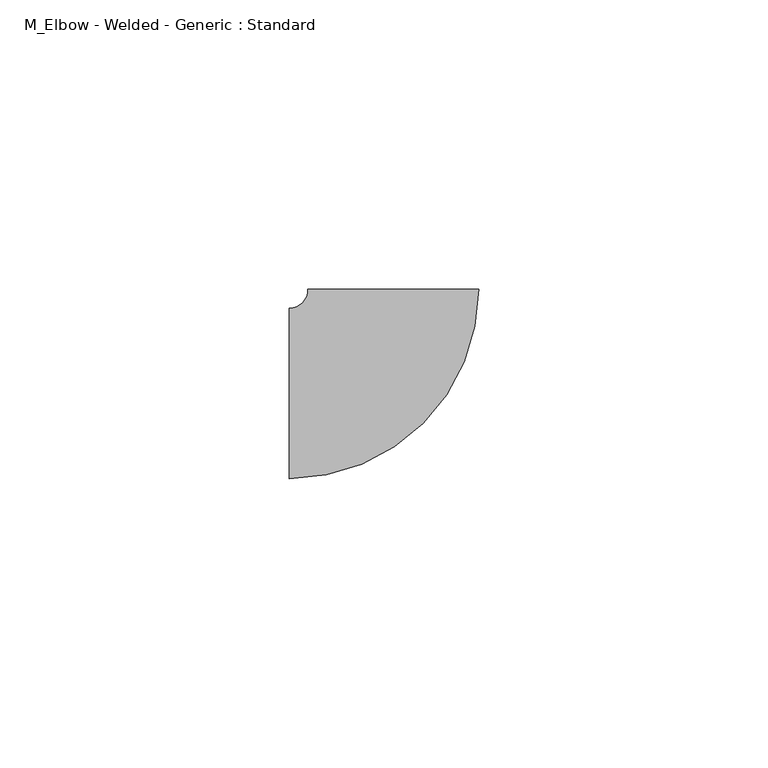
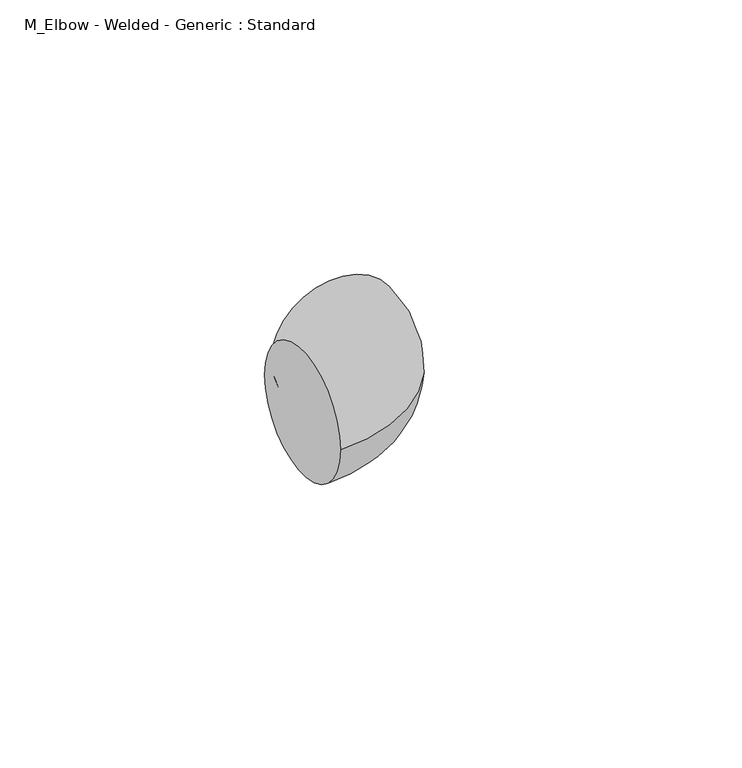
"""IFC4 building model written with IfcOpenShell, lengths in millimetres: pipe fitting geometry, M_Elbow - Welded - Generic : Standard."""

from ifc_helpers import new_model, si_unit, point, frame, origin, place, context, project, spatial, circle_curve, ellipse_curve, trimmed, source, transform, mapped, element, save
from ifc_brep_helpers import plane_surface, revolved_surface, advanced_brep


def m_elbow_welded_generic_standard_d2a14586(model_context):
    return source(origin(), model_context, "Body", "AdvancedBrep", [
        advanced_brep(
        [(-17.9427187, -14.7339844, 0.0), (-17.9427187, 14.7339844, 0.0), (14.7339844, 17.9427187, 0.0), (-14.7339844, 17.9427187, 0.0)],
        [
            (0, 1, circle_curve(frame((-17.9427187, 0.0, 0.0), z_axis=(-1.0, 0.0, 0.0), x_axis=(0.0, 1.0, 0.0)), 14.7339844)),
            (1, 0, circle_curve(frame((-17.9427187, 0.0, 0.0), z_axis=(-1.0, 0.0, 0.0), x_axis=(0.0, 1.0, 0.0)), 14.7339844)),
            (2, 3, circle_curve(frame((0.0, 17.9427187, 0.0), z_axis=(0.0, 1.0, 0.0), x_axis=(-1.0, 0.0, 0.0)), 14.7339844)),
            (3, 2, circle_curve(frame((0.0, 17.9427187, 0.0), z_axis=(0.0, 1.0, 0.0), x_axis=(-1.0, 0.0, 0.0)), 14.7339844)),
            (3, 1, circle_curve(frame((-17.9427187, 17.9427187, 0.0), z_axis=(0.0, 0.0, -1.0), x_axis=(0.0, -1.0, 0.0)), 3.2087344)),
            (0, 2, circle_curve(frame((-17.9427187, 17.9427187, 0.0), z_axis=(0.0, 0.0, 1.0), x_axis=(0.0, -1.0, 0.0)), 32.6767031)),
        ],
        [
            plane_surface(frame((-17.9427187, 0.0, 0.0), z_axis=(-1.0, 0.0, 0.0), x_axis=(0.0, 0.0, 1.0))),
            plane_surface(frame((0.0, 17.9427187, 0.0), z_axis=(0.0, 1.0, 0.0), x_axis=(0.0, 0.0, 1.0))),
            revolved_surface(trimmed(ellipse_curve(frame((-17.9427187, 0.0, 0.0), z_axis=(-1.0, 0.0, 0.0), x_axis=(0.0, 1.0, 0.0)), 14.7339844, 14.7339844), [point((-17.9427187, -14.7339844, 0.0))], [point((-17.9427187, 14.7339844, 0.0))], True, "CARTESIAN"), (-17.9427187, 17.9427187, 0.0), (0.0, 0.0, 1.0)),
            revolved_surface(trimmed(ellipse_curve(frame((-17.9427187, 0.0, 0.0), z_axis=(-1.0, 0.0, 0.0), x_axis=(0.0, 1.0, 0.0)), 14.7339844, 14.7339844), [point((-17.9427187, 14.7339844, 0.0))], [point((-17.9427187, -14.7339844, 0.0))], True, "CARTESIAN"), (-17.9427187, 17.9427187, 0.0), (0.0, 0.0, 1.0)),
        ],
        [
            (0, [[1, 2]]),
            (1, [[3, 4]]),
            (2, [[5, -1, 6, -4]]),
            (3, [[-6, -2, -5, -3]]),
        ],
    ),
    ])


if __name__ == "__main__":
    model = new_model("IFC4")
    model_context = context("Model", 3, world=origin())
    ifc_project = project(units=[si_unit("LENGTHUNIT", "METRE", prefix="MILLI")], contexts=[model_context])
    site = spatial("IfcSite", under=ifc_project)
    building = spatial("IfcBuilding", under=site)
    placement = place(None, origin())
    m_elbow_welded_generic_standard_shape = m_elbow_welded_generic_standard_d2a14586(model_context)
    element("IfcPipeFitting", 1, ObjectType="M_Elbow - Welded - Generic : Standard", at=placement, inside=building, context=model_context, shape_type="MappedRepresentation", body=[
        mapped(m_elbow_welded_generic_standard_shape, transform((0.0, 0.0, 0.0), x_axis=(1.0, 0.0, 0.0), y_axis=(0.0, 1.0, 0.0), z_axis=(0.0, 0.0, 1.0))),
    ])
    save(model, "model.ifc")
